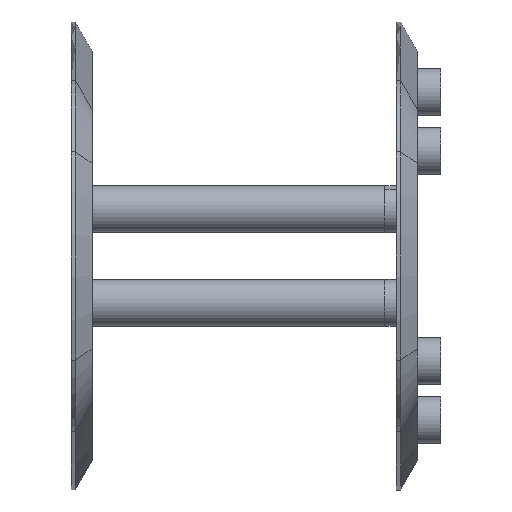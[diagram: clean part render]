
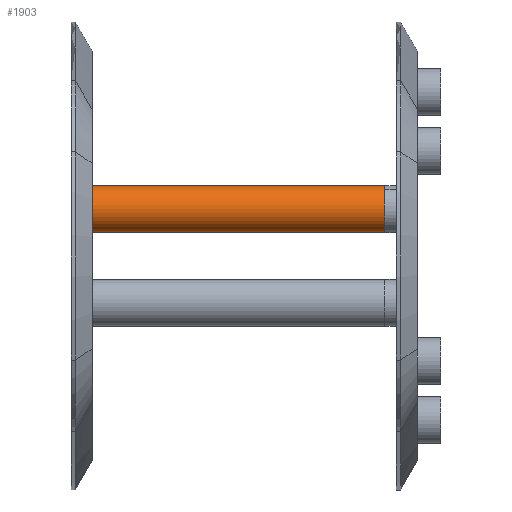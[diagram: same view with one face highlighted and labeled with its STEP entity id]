
A CAD part, left-side view. The second image highlights one B-rep face of the part: STEP entity #1903.
In plain terms, the highlighted cylindrical face has radius 20 mm (diameter 40 mm), a partial arc.
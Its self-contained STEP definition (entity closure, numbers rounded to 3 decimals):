
#279 = ORIENTED_EDGE ( 'NONE', *, *, #3234, .T. ) ;
#281 = AXIS2_PLACEMENT_3D ( 'NONE', #2068, #1802, #742 ) ;
#311 = AXIS2_PLACEMENT_3D ( 'NONE', #407, #1988, #925 ) ;
#317 = CARTESIAN_POINT ( 'NONE',  ( 0., 250., -20. ) ) ;
#407 = CARTESIAN_POINT ( 'NONE',  ( 0., 250., 0. ) ) ;
#421 = DIRECTION ( 'NONE',  ( 0., 0., 1. ) ) ;
#623 = EDGE_CURVE ( 'NONE', #1756, #1223, #1776, .T. ) ;
#652 = ORIENTED_EDGE ( 'NONE', *, *, #1923, .F. ) ;
#742 = DIRECTION ( 'NONE',  ( 0., 0., 1. ) ) ;
#919 = VERTEX_POINT ( 'NONE', #3283 ) ;
#925 = DIRECTION ( 'NONE',  ( 0., 0., -1. ) ) ;
#943 = VERTEX_POINT ( 'NONE', #317 ) ;
#988 = ORIENTED_EDGE ( 'NONE', *, *, #623, .F. ) ;
#1122 = EDGE_LOOP ( 'NONE', ( #988, #652, #3046, #279 ) ) ;
#1223 = VERTEX_POINT ( 'NONE', #3099 ) ;
#1362 = CIRCLE ( 'NONE', #3452, 20. ) ;
#1557 = CARTESIAN_POINT ( 'NONE',  ( 0., 250., 20. ) ) ;
#1756 = VERTEX_POINT ( 'NONE', #2113 ) ;
#1776 = LINE ( 'NONE', #1557, #2297 ) ;
#1802 = DIRECTION ( 'NONE',  ( 0., 1., 0. ) ) ;
#1903 = ADVANCED_FACE ( 'NONE', ( #2081 ), #2290, .T. ) ;
#1923 = EDGE_CURVE ( 'NONE', #943, #1756, #1362, .T. ) ;
#1988 = DIRECTION ( 'NONE',  ( 0., -1., 0. ) ) ;
#2068 = CARTESIAN_POINT ( 'NONE',  ( 0., 0., 0. ) ) ;
#2081 = FACE_OUTER_BOUND ( 'NONE', #1122, .T. ) ;
#2113 = CARTESIAN_POINT ( 'NONE',  ( 0., 250., 20. ) ) ;
#2229 = LINE ( 'NONE', #2830, #2309 ) ;
#2290 = CYLINDRICAL_SURFACE ( 'NONE', #311, 20. ) ;
#2297 = VECTOR ( 'NONE', #2925, 1000. ) ;
#2309 = VECTOR ( 'NONE', #2560, 1000. ) ;
#2560 = DIRECTION ( 'NONE',  ( 0., -1., 0. ) ) ;
#2830 = CARTESIAN_POINT ( 'NONE',  ( 0., 250., -20. ) ) ;
#2839 = DIRECTION ( 'NONE',  ( 0., 1., 0. ) ) ;
#2925 = DIRECTION ( 'NONE',  ( 0., -1., 0. ) ) ;
#3046 = ORIENTED_EDGE ( 'NONE', *, *, #3150, .T. ) ;
#3099 = CARTESIAN_POINT ( 'NONE',  ( 0., 0., 20. ) ) ;
#3150 = EDGE_CURVE ( 'NONE', #943, #919, #2229, .T. ) ;
#3214 = CIRCLE ( 'NONE', #281, 20. ) ;
#3234 = EDGE_CURVE ( 'NONE', #919, #1223, #3214, .T. ) ;
#3283 = CARTESIAN_POINT ( 'NONE',  ( 0., 0., -20. ) ) ;
#3361 = CARTESIAN_POINT ( 'NONE',  ( 0., 250., 0. ) ) ;
#3452 = AXIS2_PLACEMENT_3D ( 'NONE', #3361, #2839, #421 ) ;
